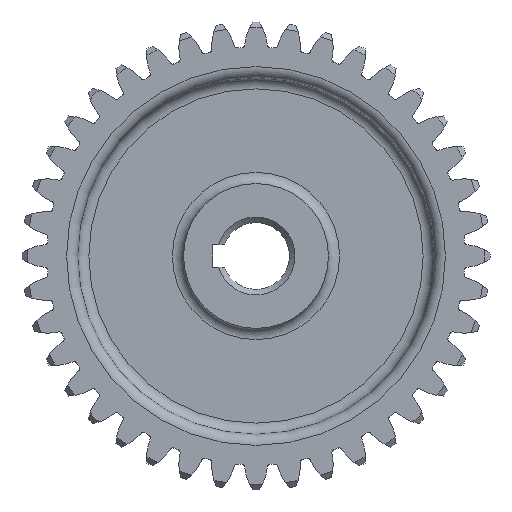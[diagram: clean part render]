
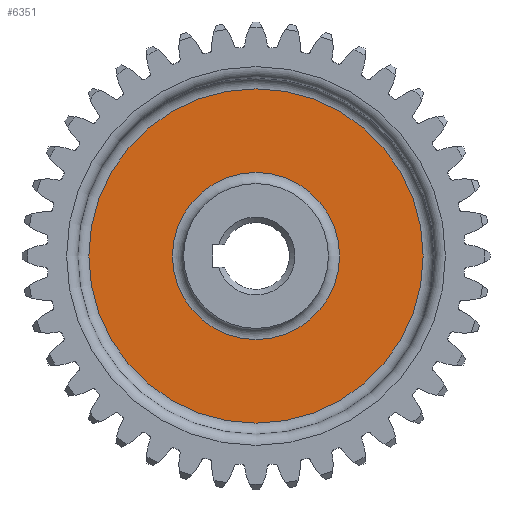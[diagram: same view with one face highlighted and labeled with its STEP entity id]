
A CAD part, left-side view. The second image highlights one B-rep face of the part: STEP entity #6351.
In plain terms, the highlighted planar face has unit normal (-1, 0, 0).
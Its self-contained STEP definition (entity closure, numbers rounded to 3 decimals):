
#186=FACE_BOUND('',#1792,.T.);
#1019=CIRCLE('',#7303,30.);
#1020=CIRCLE('',#7305,15.);
#1444=FACE_OUTER_BOUND('',#1791,.T.);
#1791=EDGE_LOOP('',(#5995));
#1792=EDGE_LOOP('',(#5996));
#2976=VERTEX_POINT('',#11931);
#2977=VERTEX_POINT('',#11935);
#3983=EDGE_CURVE('',#2976,#2976,#1019,.T.);
#3984=EDGE_CURVE('',#2977,#2977,#1020,.T.);
#5995=ORIENTED_EDGE('',*,*,#3983,.T.);
#5996=ORIENTED_EDGE('',*,*,#3984,.F.);
#6010=PLANE('',#7304);
#6351=ADVANCED_FACE('',(#1444,#186),#6010,.T.);
#7303=AXIS2_PLACEMENT_3D('',#11933,#9418,#9419);
#7304=AXIS2_PLACEMENT_3D('',#11934,#9420,#9421);
#7305=AXIS2_PLACEMENT_3D('',#11936,#9422,#9423);
#9418=DIRECTION('center_axis',(-1.,0.,0.));
#9419=DIRECTION('ref_axis',(0.,0.,1.));
#9420=DIRECTION('center_axis',(-1.,0.,0.));
#9421=DIRECTION('ref_axis',(0.,0.,1.));
#9422=DIRECTION('center_axis',(-1.,0.,0.));
#9423=DIRECTION('ref_axis',(0.,0.,1.));
#11931=CARTESIAN_POINT('',(-11.,0.,-30.));
#11933=CARTESIAN_POINT('Origin',(-11.,0.,0.));
#11934=CARTESIAN_POINT('Origin',(-11.,-15.,0.));
#11935=CARTESIAN_POINT('',(-11.,0.,-15.));
#11936=CARTESIAN_POINT('Origin',(-11.,0.,0.));
